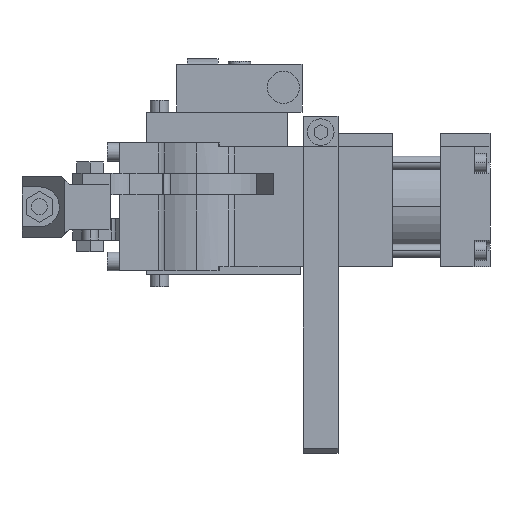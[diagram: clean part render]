
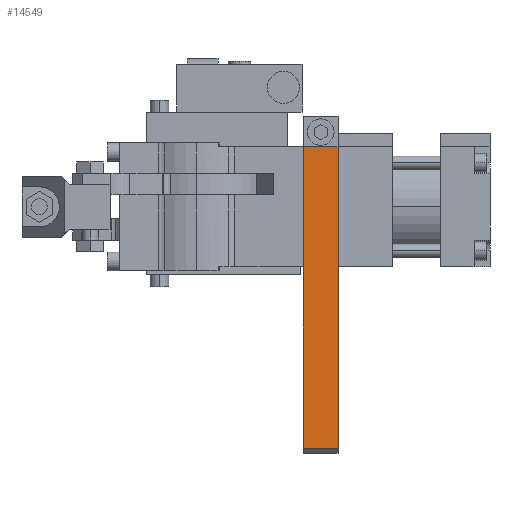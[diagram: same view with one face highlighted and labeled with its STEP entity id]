
A CAD part, left-side view. The second image highlights one B-rep face of the part: STEP entity #14549.
In plain terms, the highlighted planar face has unit normal (-1, 0, 0) as drawn and (0, 1, 0) by its records, which use the part's own axes.
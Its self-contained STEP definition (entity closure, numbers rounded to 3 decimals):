
#140 = VERTEX_POINT ( 'NONE', #5962 ) ;
#567 = VECTOR ( 'NONE', #17812, 1000. ) ;
#2514 = EDGE_CURVE ( 'NONE', #15057, #4284, #17347, .T. ) ;
#2556 = VERTEX_POINT ( 'NONE', #18316 ) ;
#3411 = ORIENTED_EDGE ( 'NONE', *, *, #18144, .T. ) ;
#3529 = VECTOR ( 'NONE', #11608, 1000. ) ;
#4284 = VERTEX_POINT ( 'NONE', #18998 ) ;
#4726 = DIRECTION ( 'NONE',  ( 0., -1., 0. ) ) ;
#5621 = CARTESIAN_POINT ( 'NONE',  ( -22.5, 22.5, 13. ) ) ;
#5720 = ORIENTED_EDGE ( 'NONE', *, *, #2514, .F. ) ;
#5791 = VECTOR ( 'NONE', #8860, 1000. ) ;
#5962 = CARTESIAN_POINT ( 'NONE',  ( 90.5, 22.5, 0. ) ) ;
#7422 = CARTESIAN_POINT ( 'NONE',  ( 90.5, 22.5, 13. ) ) ;
#8343 = EDGE_LOOP ( 'NONE', ( #5720, #18445, #3411, #12376 ) ) ;
#8797 = CARTESIAN_POINT ( 'NONE',  ( -22.5, 22.5, 13. ) ) ;
#8818 = EDGE_CURVE ( 'NONE', #15057, #140, #14660, .T. ) ;
#8860 = DIRECTION ( 'NONE',  ( 0., 0., -1. ) ) ;
#9961 = AXIS2_PLACEMENT_3D ( 'NONE', #13877, #4726, #15412 ) ;
#10181 = FACE_OUTER_BOUND ( 'NONE', #8343, .T. ) ;
#11421 = EDGE_CURVE ( 'NONE', #4284, #2556, #13915, .T. ) ;
#11608 = DIRECTION ( 'NONE',  ( -1., 0., 0. ) ) ;
#12178 = CARTESIAN_POINT ( 'NONE',  ( 90.5, 22.5, 13. ) ) ;
#12376 = ORIENTED_EDGE ( 'NONE', *, *, #11421, .F. ) ;
#13877 = CARTESIAN_POINT ( 'NONE',  ( -22.5, 22.5, 13. ) ) ;
#13915 = LINE ( 'NONE', #8797, #5791 ) ;
#14549 = ADVANCED_FACE ( 'NONE', ( #10181 ), #15353, .F. ) ;
#14660 = LINE ( 'NONE', #7422, #18172 ) ;
#15042 = DIRECTION ( 'NONE',  ( 0., 0., -1. ) ) ;
#15057 = VERTEX_POINT ( 'NONE', #12178 ) ;
#15353 = PLANE ( 'NONE',  #9961 ) ;
#15412 = DIRECTION ( 'NONE',  ( 1., 0., 0. ) ) ;
#17347 = LINE ( 'NONE', #5621, #567 ) ;
#17812 = DIRECTION ( 'NONE',  ( -1., 0., 0. ) ) ;
#18144 = EDGE_CURVE ( 'NONE', #140, #2556, #19672, .T. ) ;
#18172 = VECTOR ( 'NONE', #15042, 1000. ) ;
#18316 = CARTESIAN_POINT ( 'NONE',  ( -22.5, 22.5, 0. ) ) ;
#18445 = ORIENTED_EDGE ( 'NONE', *, *, #8818, .T. ) ;
#18998 = CARTESIAN_POINT ( 'NONE',  ( -22.5, 22.5, 13. ) ) ;
#19149 = CARTESIAN_POINT ( 'NONE',  ( -22.5, 22.5, 0. ) ) ;
#19672 = LINE ( 'NONE', #19149, #3529 ) ;
